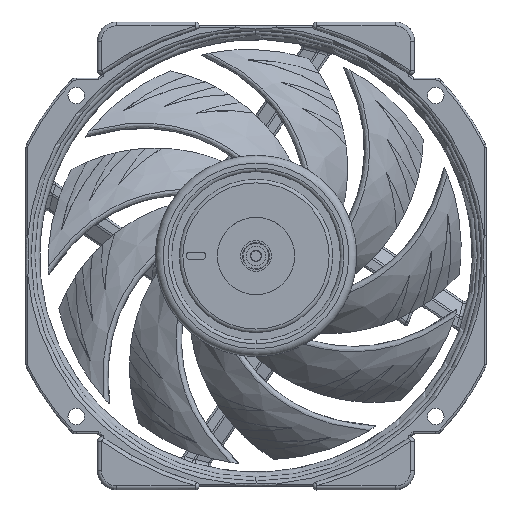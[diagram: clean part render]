
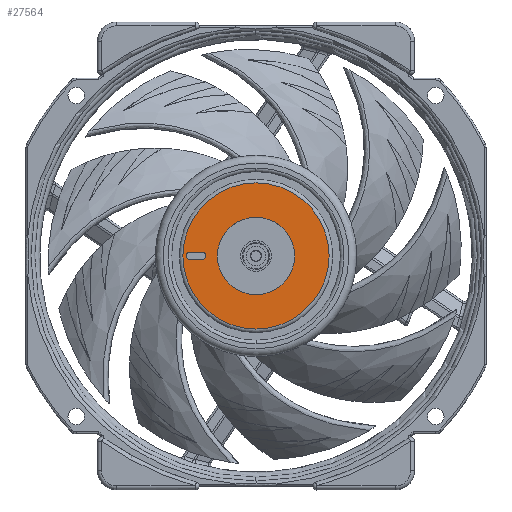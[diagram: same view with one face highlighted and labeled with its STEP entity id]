
A CAD part, top view. The second image highlights one B-rep face of the part: STEP entity #27564.
In plain terms, the highlighted planar face has unit normal (0, 0, 1) as drawn and (0, 1, 0) by its records, which use the part's own axes.
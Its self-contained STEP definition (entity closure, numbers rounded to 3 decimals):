
#667=PLANE('',#32709);
#1939=LINE('',#52563,#3712);
#1942=LINE('',#52571,#3715);
#3712=VECTOR('',#38327,1000.);
#3715=VECTOR('',#38336,1000.);
#6050=CIRCLE('',#32702,10.);
#6051=CIRCLE('',#32704,1.);
#6052=CIRCLE('',#32707,1.);
#6053=CIRCLE('',#32710,18.908);
#11733=ORIENTED_EDGE('',*,*,#17522,.F.);
#11734=ORIENTED_EDGE('',*,*,#17521,.T.);
#11735=ORIENTED_EDGE('',*,*,#17519,.T.);
#11736=ORIENTED_EDGE('',*,*,#17517,.T.);
#11737=ORIENTED_EDGE('',*,*,#17515,.T.);
#11738=ORIENTED_EDGE('',*,*,#17513,.T.);
#17513=EDGE_CURVE('',#20775,#20775,#6050,.T.);
#17515=EDGE_CURVE('',#20777,#20776,#6051,.T.);
#17517=EDGE_CURVE('',#20778,#20777,#1939,.T.);
#17519=EDGE_CURVE('',#20779,#20778,#6052,.T.);
#17521=EDGE_CURVE('',#20776,#20779,#1942,.T.);
#17522=EDGE_CURVE('',#20780,#20780,#6053,.T.);
#20775=VERTEX_POINT('',#52555);
#20776=VERTEX_POINT('',#52558);
#20777=VERTEX_POINT('',#52560);
#20778=VERTEX_POINT('',#52564);
#20779=VERTEX_POINT('',#52568);
#20780=VERTEX_POINT('',#52574);
#24092=EDGE_LOOP('',(#11733));
#24093=EDGE_LOOP('',(#11734,#11735,#11736,#11737));
#24094=EDGE_LOOP('',(#11738));
#25834=FACE_BOUND('',#24092,.T.);
#25835=FACE_BOUND('',#24093,.T.);
#25836=FACE_BOUND('',#24094,.T.);
#27564=ADVANCED_FACE('',(#25834,#25835,#25836),#667,.T.);
#32702=AXIS2_PLACEMENT_3D('',#52554,#38317,#38318);
#32704=AXIS2_PLACEMENT_3D('',#52559,#38322,#38323);
#32707=AXIS2_PLACEMENT_3D('',#52567,#38331,#38332);
#32709=AXIS2_PLACEMENT_3D('',#52572,#38337,#38338);
#32710=AXIS2_PLACEMENT_3D('',#52573,#38339,#38340);
#38317=DIRECTION('',(0.,-1.,0.));
#38318=DIRECTION('',(0.,0.,1.));
#38322=DIRECTION('',(0.,-1.,0.));
#38323=DIRECTION('',(1.,0.,0.));
#38327=DIRECTION('',(0.,0.,1.));
#38331=DIRECTION('',(0.,-1.,0.));
#38332=DIRECTION('',(-1.,0.,0.));
#38336=DIRECTION('',(0.,0.,-1.));
#38337=DIRECTION('',(0.,1.,0.));
#38338=DIRECTION('',(0.,0.,1.));
#38339=DIRECTION('',(0.,-1.,0.));
#38340=DIRECTION('',(-1.,0.,0.));
#52554=CARTESIAN_POINT('',(0.,22.55,0.));
#52555=CARTESIAN_POINT('',(0.,22.55,10.));
#52558=CARTESIAN_POINT('',(-1.,22.55,-14.));
#52559=CARTESIAN_POINT('',(0.,22.55,-14.));
#52560=CARTESIAN_POINT('',(1.,22.55,-14.));
#52563=CARTESIAN_POINT('',(1.,22.55,-15.5));
#52564=CARTESIAN_POINT('',(1.,22.55,-17.));
#52567=CARTESIAN_POINT('',(0.,22.55,-17.));
#52568=CARTESIAN_POINT('',(-1.,22.55,-17.));
#52571=CARTESIAN_POINT('',(-1.,22.55,-15.5));
#52572=CARTESIAN_POINT('',(-18.921,22.55,-18.918));
#52573=CARTESIAN_POINT('',(0.,22.55,0.));
#52574=CARTESIAN_POINT('',(-18.908,22.55,-0.004));
